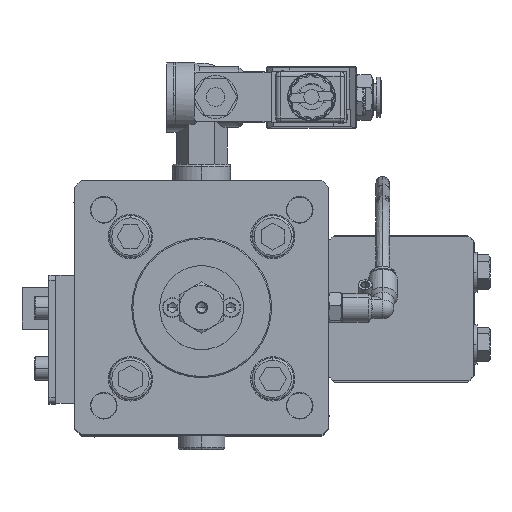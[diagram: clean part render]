
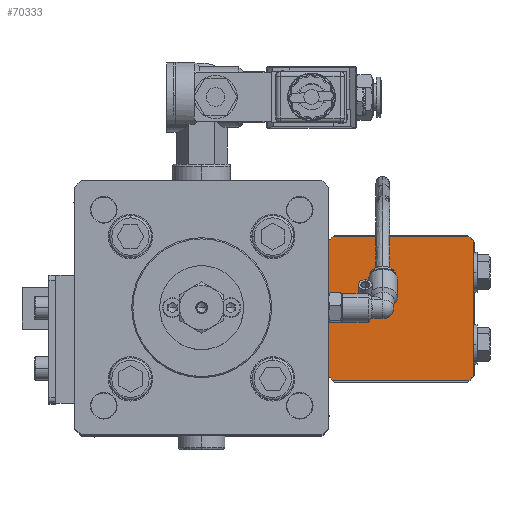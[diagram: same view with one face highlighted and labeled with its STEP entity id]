
A CAD part, top view. The second image highlights one B-rep face of the part: STEP entity #70333.
In plain terms, the highlighted planar face has unit normal (0, 0, 1) as drawn and (0, -1, 0) by its records, which use the part's own axes.
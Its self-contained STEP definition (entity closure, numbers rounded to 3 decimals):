
#1373 = CARTESIAN_POINT ( 'NONE',  ( 0., 0., 0. ) ) ;
#2779 = LINE ( 'NONE', #31292, #91121 ) ;
#6314 = VECTOR ( 'NONE', #99054, 1000. ) ;
#7042 = VERTEX_POINT ( 'NONE', #103798 ) ;
#8312 = DIRECTION ( 'NONE',  ( 0., 1., 0. ) ) ;
#9803 = DIRECTION ( 'NONE',  ( 0., 0., 1. ) ) ;
#11513 = AXIS2_PLACEMENT_3D ( 'NONE', #44509, #102528, #52858 ) ;
#14610 = EDGE_CURVE ( 'NONE', #104051, #66610, #20120, .T. ) ;
#17483 = EDGE_CURVE ( 'NONE', #84288, #24833, #2779, .T. ) ;
#18644 = EDGE_CURVE ( 'NONE', #56137, #7042, #63687, .T. ) ;
#20120 = LINE ( 'NONE', #23463, #78518 ) ;
#23463 = CARTESIAN_POINT ( 'NONE',  ( 31., 0., -31. ) ) ;
#24833 = VERTEX_POINT ( 'NONE', #40861 ) ;
#25069 = ORIENTED_EDGE ( 'NONE', *, *, #75732, .T. ) ;
#26258 = CARTESIAN_POINT ( 'NONE',  ( 31., 0., -29.073 ) ) ;
#31292 = CARTESIAN_POINT ( 'NONE',  ( -31., 0., -31. ) ) ;
#33069 = CARTESIAN_POINT ( 'NONE',  ( 0., 0., 0. ) ) ;
#33332 = AXIS2_PLACEMENT_3D ( 'NONE', #66059, #8312, #66429 ) ;
#35431 = CIRCLE ( 'NONE', #51790, 42.5 ) ;
#35757 = ORIENTED_EDGE ( 'NONE', *, *, #103237, .T. ) ;
#37183 = VERTEX_POINT ( 'NONE', #67781 ) ;
#39210 = ORIENTED_EDGE ( 'NONE', *, *, #82456, .F. ) ;
#39640 = DIRECTION ( 'NONE',  ( 0., 0., 1. ) ) ;
#40520 = DIRECTION ( 'NONE',  ( 0., 0., -1. ) ) ;
#40861 = CARTESIAN_POINT ( 'NONE',  ( -31., 0., 29.073 ) ) ;
#41014 = CARTESIAN_POINT ( 'NONE',  ( -31., 0., 31. ) ) ;
#41415 = DIRECTION ( 'NONE',  ( 0., 0., 1. ) ) ;
#42983 = CARTESIAN_POINT ( 'NONE',  ( 29.073, 0., 31. ) ) ;
#44509 = CARTESIAN_POINT ( 'NONE',  ( 0., 0., 0. ) ) ;
#46195 = DIRECTION ( 'NONE',  ( 0., -1., 0. ) ) ;
#48490 = DIRECTION ( 'NONE',  ( -1., 0., 0. ) ) ;
#48680 = CARTESIAN_POINT ( 'NONE',  ( 31., 0., 29.073 ) ) ;
#51790 = AXIS2_PLACEMENT_3D ( 'NONE', #95896, #46195, #104208 ) ;
#52858 = DIRECTION ( 'NONE',  ( 0., 0., 1. ) ) ;
#56137 = VERTEX_POINT ( 'NONE', #76000 ) ;
#58047 = PLANE ( 'NONE',  #33332 ) ;
#59348 = EDGE_LOOP ( 'NONE', ( #59954, #94974, #25069, #64973, #97894, #78257, #35757, #39210 ) ) ;
#59538 = DIRECTION ( 'NONE',  ( 0., -1., 0. ) ) ;
#59954 = ORIENTED_EDGE ( 'NONE', *, *, #74109, .T. ) ;
#60875 = AXIS2_PLACEMENT_3D ( 'NONE', #33069, #91096, #41415 ) ;
#61093 = VECTOR ( 'NONE', #48490, 1000. ) ;
#61857 = CIRCLE ( 'NONE', #11513, 42.5 ) ;
#63687 = LINE ( 'NONE', #106503, #61093 ) ;
#64789 = LINE ( 'NONE', #41014, #6314 ) ;
#64973 = ORIENTED_EDGE ( 'NONE', *, *, #18644, .F. ) ;
#65160 = CARTESIAN_POINT ( 'NONE',  ( -31., 0., -29.073 ) ) ;
#66059 = CARTESIAN_POINT ( 'NONE',  ( 0., 0., 0. ) ) ;
#66429 = DIRECTION ( 'NONE',  ( 0., 0., 1. ) ) ;
#66610 = VERTEX_POINT ( 'NONE', #26258 ) ;
#67781 = CARTESIAN_POINT ( 'NONE',  ( -29.073, 0., 31. ) ) ;
#70333 = ADVANCED_FACE ( 'NONE', ( #73038 ), #58047, .F. ) ;
#73038 = FACE_OUTER_BOUND ( 'NONE', #59348, .T. ) ;
#74109 = EDGE_CURVE ( 'NONE', #37183, #24833, #91770, .T. ) ;
#75402 = EDGE_CURVE ( 'NONE', #56137, #66610, #35431, .T. ) ;
#75732 = EDGE_CURVE ( 'NONE', #84288, #7042, #78242, .T. ) ;
#76000 = CARTESIAN_POINT ( 'NONE',  ( 29.073, 0., -31. ) ) ;
#78242 = CIRCLE ( 'NONE', #60875, 42.5 ) ;
#78257 = ORIENTED_EDGE ( 'NONE', *, *, #14610, .F. ) ;
#78518 = VECTOR ( 'NONE', #40520, 1000. ) ;
#82456 = EDGE_CURVE ( 'NONE', #37183, #92313, #64789, .T. ) ;
#84288 = VERTEX_POINT ( 'NONE', #65160 ) ;
#91096 = DIRECTION ( 'NONE',  ( 0., -1., 0. ) ) ;
#91121 = VECTOR ( 'NONE', #39640, 1000. ) ;
#91770 = CIRCLE ( 'NONE', #106564, 42.5 ) ;
#92313 = VERTEX_POINT ( 'NONE', #42983 ) ;
#94974 = ORIENTED_EDGE ( 'NONE', *, *, #17483, .F. ) ;
#95896 = CARTESIAN_POINT ( 'NONE',  ( 0., 0., 0. ) ) ;
#97894 = ORIENTED_EDGE ( 'NONE', *, *, #75402, .T. ) ;
#99054 = DIRECTION ( 'NONE',  ( 1., 0., 0. ) ) ;
#102528 = DIRECTION ( 'NONE',  ( 0., -1., 0. ) ) ;
#103237 = EDGE_CURVE ( 'NONE', #104051, #92313, #61857, .T. ) ;
#103798 = CARTESIAN_POINT ( 'NONE',  ( -29.073, 0., -31. ) ) ;
#104051 = VERTEX_POINT ( 'NONE', #48680 ) ;
#104208 = DIRECTION ( 'NONE',  ( 0., 0., 1. ) ) ;
#106503 = CARTESIAN_POINT ( 'NONE',  ( -31., 0., -31. ) ) ;
#106564 = AXIS2_PLACEMENT_3D ( 'NONE', #1373, #59538, #9803 ) ;
